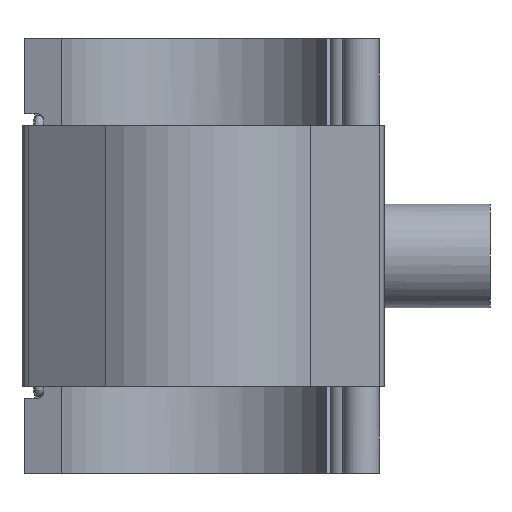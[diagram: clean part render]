
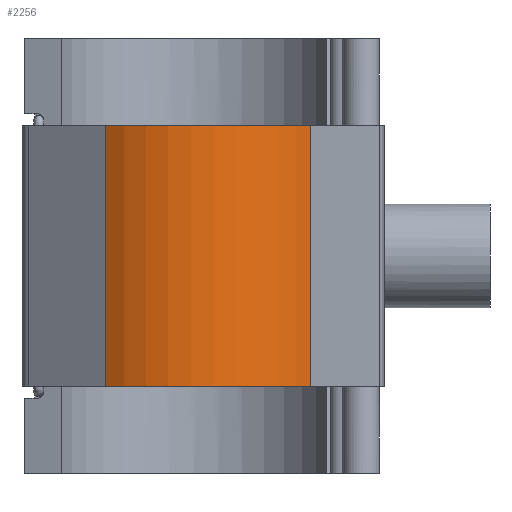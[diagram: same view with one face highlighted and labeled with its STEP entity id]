
A CAD part, front view. The second image highlights one B-rep face of the part: STEP entity #2256.
In plain terms, the highlighted cylindrical face has radius 58.761 mm (diameter 117.523 mm), a partial arc.
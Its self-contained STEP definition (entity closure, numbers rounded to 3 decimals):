
#216=FACE_OUTER_BOUND('',#351,.T.);
#351=EDGE_LOOP('',(#1991,#1992,#1993,#1994));
#447=CIRCLE('',#2420,58.762);
#453=CIRCLE('',#2427,58.762);
#703=LINE('',#4145,#891);
#708=LINE('',#4153,#896);
#891=VECTOR('',#3103,10.);
#896=VECTOR('',#3114,10.);
#1022=VERTEX_POINT('',#3830);
#1023=VERTEX_POINT('',#3832);
#1029=VERTEX_POINT('',#3849);
#1030=VERTEX_POINT('',#3851);
#1275=EDGE_CURVE('',#1022,#1023,#447,.T.);
#1286=EDGE_CURVE('',#1029,#1030,#453,.T.);
#1403=EDGE_CURVE('',#1029,#1023,#703,.T.);
#1408=EDGE_CURVE('',#1022,#1030,#708,.T.);
#1991=ORIENTED_EDGE('',*,*,#1408,.T.);
#1992=ORIENTED_EDGE('',*,*,#1286,.F.);
#1993=ORIENTED_EDGE('',*,*,#1403,.T.);
#1994=ORIENTED_EDGE('',*,*,#1275,.F.);
#2144=CYLINDRICAL_SURFACE('',#2500,58.762);
#2256=ADVANCED_FACE('',(#216),#2144,.T.);
#2420=AXIS2_PLACEMENT_3D('',#3833,#2862,#2863);
#2427=AXIS2_PLACEMENT_3D('',#3852,#2881,#2882);
#2500=AXIS2_PLACEMENT_3D('',#4154,#3115,#3116);
#2862=DIRECTION('center_axis',(0.,0.,-1.));
#2863=DIRECTION('ref_axis',(0.611,0.791,0.));
#2881=DIRECTION('center_axis',(0.,0.,1.));
#2882=DIRECTION('ref_axis',(0.611,0.791,0.));
#3103=DIRECTION('',(0.,0.,-1.));
#3114=DIRECTION('',(0.,0.,1.));
#3115=DIRECTION('center_axis',(0.,0.,1.));
#3116=DIRECTION('ref_axis',(0.611,0.791,0.));
#3830=CARTESIAN_POINT('',(47.364,-34.779,-52.807));
#3832=CARTESIAN_POINT('',(-35.931,-46.496,-52.807));
#3833=CARTESIAN_POINT('Origin',(0.,0.,
-52.807));
#3849=CARTESIAN_POINT('',(-35.931,-46.496,52.807));
#3851=CARTESIAN_POINT('',(47.364,-34.779,52.807));
#3852=CARTESIAN_POINT('Origin',(0.,0.,
52.807));
#4145=CARTESIAN_POINT('',(-35.931,-46.496,0.));
#4153=CARTESIAN_POINT('',(47.364,-34.779,0.));
#4154=CARTESIAN_POINT('Origin',(0.,0.,
0.));
